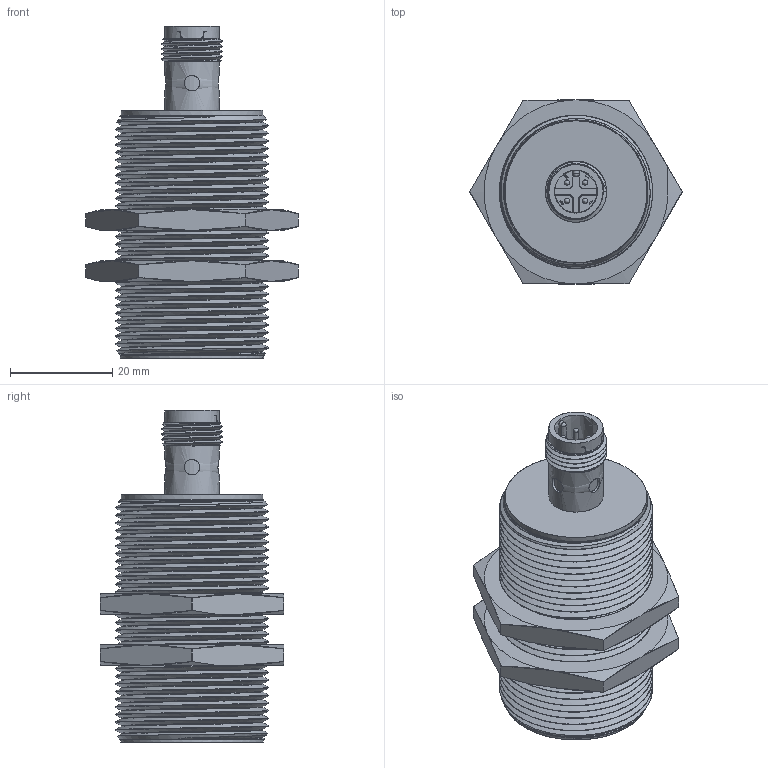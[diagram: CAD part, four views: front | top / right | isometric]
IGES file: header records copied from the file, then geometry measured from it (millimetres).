
Global section: file name: 3DCAD_IS_D30MM_2NC_15E_M12.igs; native system: NX V2306; preprocessor: SIEMENS PLM Software NX2306.9180; date: 20250430.113258; units: millimetre
Bounding box: 41.57 x 36 x 65 mm (x, y, z)
Surface area: 14755.7 mm2 (no closed solid volume)
Topology: 0 solids, 0 shells, 302 faces, 2172 edges, 2139 vertices
Faces by surface type: bspline 302
